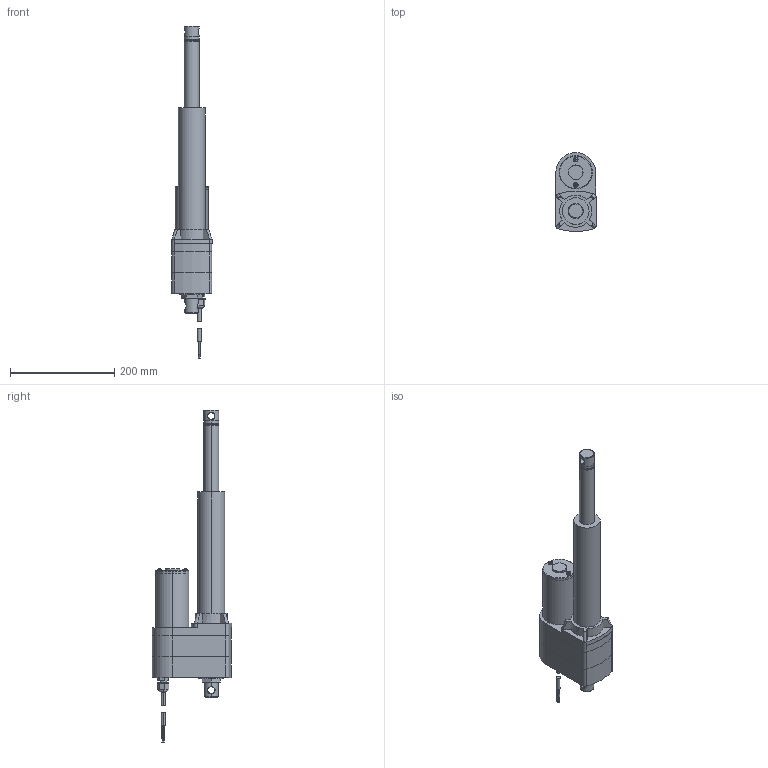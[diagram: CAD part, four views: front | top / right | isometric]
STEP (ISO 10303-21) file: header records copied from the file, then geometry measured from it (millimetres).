
FILE_DESCRIPTION (( 'STEP AP203' ), '1' );
FILE_NAME ('LA10_BALL_6_POTx.step', '2021-02-24T15:35:09', ( '' ), ( '' ), 'SwSTEP 2.0', 'SolidWorks 2017', '' );
FILE_SCHEMA (( 'CONFIG_CONTROL_DESIGN' ));
Length unit declared in the file: millimetre
Products named in the file (1): LA10_BALL_6_POTx
Bounding box: 77.22 x 151.29 x 635.46 mm (x, y, z)
Volume: 2088240.1 mm3; surface area: 211457.5 mm2
Topology: 14 solids, 14 shells, 345 faces, 740 edges, 460 vertices
Faces by surface type: plane 162, cylinder 115, cone 24, bspline 22, torus 18, sphere 4
Entity records: 11368 total; most frequent: CARTESIAN_POINT 3734, DIRECTION 1643, ORIENTED_EDGE 1480, EDGE_CURVE 740, AXIS2_PLACEMENT_3D 649, VERTEX_POINT 460, EDGE_LOOP 390, LINE 345
